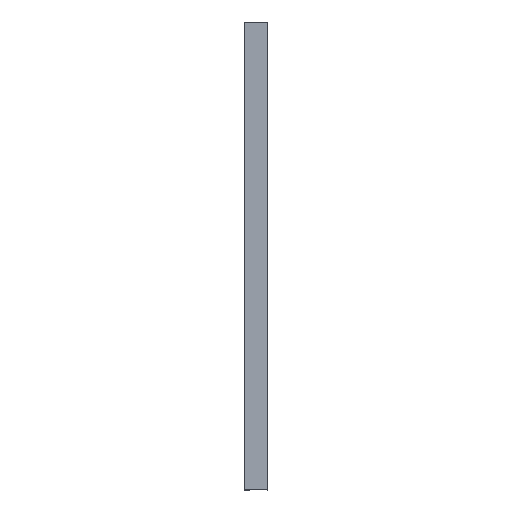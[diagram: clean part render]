
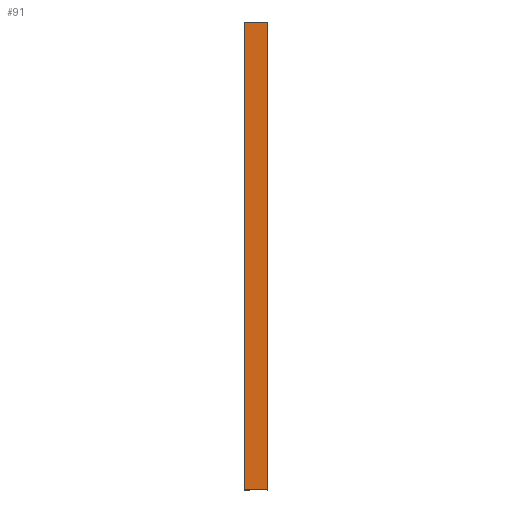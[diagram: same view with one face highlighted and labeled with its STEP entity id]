
A CAD part, left-side view. The second image highlights one B-rep face of the part: STEP entity #91.
In plain terms, the highlighted planar face has unit normal (-1, 0, 0).
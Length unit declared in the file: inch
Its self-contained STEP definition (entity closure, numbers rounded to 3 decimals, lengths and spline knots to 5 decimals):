
#17 = DIRECTION ( 'NONE',  ( 0., -1., 0. ) ) ;
#19 = CARTESIAN_POINT ( 'NONE',  ( 0.015, 0.02222, 39.37008 ) ) ;
#47 = EDGE_CURVE ( 'NONE', #521, #566, #322, .T. ) ;
#91 = ADVANCED_FACE ( 'NONE', ( #488 ), #348, .F. ) ;
#97 = EDGE_CURVE ( 'NONE', #394, #566, #539, .T. ) ;
#122 = CARTESIAN_POINT ( 'NONE',  ( 0.015, 0.02222, 0. ) ) ;
#126 = EDGE_LOOP ( 'NONE', ( #315, #432, #571, #215 ) ) ;
#130 = DIRECTION ( 'NONE',  ( 1., 0., 0. ) ) ;
#154 = LINE ( 'NONE', #316, #525 ) ;
#188 = AXIS2_PLACEMENT_3D ( 'NONE', #19, #130, #405 ) ;
#215 = ORIENTED_EDGE ( 'NONE', *, *, #299, .T. ) ;
#220 = DIRECTION ( 'NONE',  ( 0., -1., 0. ) ) ;
#249 = CARTESIAN_POINT ( 'NONE',  ( 0.015, 0.02222, 39.37008 ) ) ;
#269 = CARTESIAN_POINT ( 'NONE',  ( 0.015, 1.98, 0. ) ) ;
#285 = VECTOR ( 'NONE', #556, 39.37008 ) ;
#299 = EDGE_CURVE ( 'NONE', #547, #394, #458, .T. ) ;
#315 = ORIENTED_EDGE ( 'NONE', *, *, #97, .T. ) ;
#316 = CARTESIAN_POINT ( 'NONE',  ( 0.015, 0.02222, 39.37008 ) ) ;
#322 = LINE ( 'NONE', #249, #461 ) ;
#348 = PLANE ( 'NONE',  #188 ) ;
#364 = CARTESIAN_POINT ( 'NONE',  ( 0.015, 0.02222, 0. ) ) ;
#375 = CARTESIAN_POINT ( 'NONE',  ( 0.015, 0.02222, 39.37008 ) ) ;
#393 = VECTOR ( 'NONE', #17, 39.37008 ) ;
#394 = VERTEX_POINT ( 'NONE', #269 ) ;
#405 = DIRECTION ( 'NONE',  ( 0., 0., -1. ) ) ;
#415 = CARTESIAN_POINT ( 'NONE',  ( 0.015, 1.98, 39.37008 ) ) ;
#419 = CARTESIAN_POINT ( 'NONE',  ( 0.015, 1.98, 39.37008 ) ) ;
#432 = ORIENTED_EDGE ( 'NONE', *, *, #47, .F. ) ;
#458 = LINE ( 'NONE', #419, #285 ) ;
#460 = EDGE_CURVE ( 'NONE', #547, #521, #154, .T. ) ;
#461 = VECTOR ( 'NONE', #549, 39.37008 ) ;
#488 = FACE_OUTER_BOUND ( 'NONE', #126, .T. ) ;
#521 = VERTEX_POINT ( 'NONE', #375 ) ;
#525 = VECTOR ( 'NONE', #220, 39.37008 ) ;
#539 = LINE ( 'NONE', #364, #393 ) ;
#547 = VERTEX_POINT ( 'NONE', #415 ) ;
#549 = DIRECTION ( 'NONE',  ( 0., 0., -1. ) ) ;
#556 = DIRECTION ( 'NONE',  ( 0., 0., -1. ) ) ;
#566 = VERTEX_POINT ( 'NONE', #122 ) ;
#571 = ORIENTED_EDGE ( 'NONE', *, *, #460, .F. ) ;
